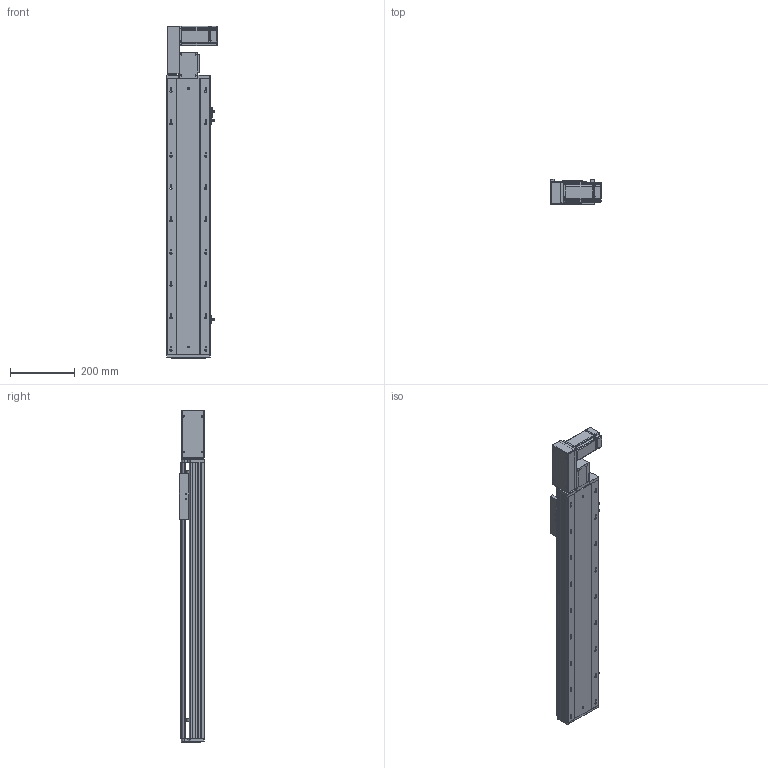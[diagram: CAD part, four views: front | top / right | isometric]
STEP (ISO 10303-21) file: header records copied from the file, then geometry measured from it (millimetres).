
FILE_DESCRIPTION (( 'STEP AP203' ), '1' );
FILE_NAME ('RY140-T-300-LK.SLDASM_600.step', '2021-03-01T06:35:00', ( '盈信电脑' ), ( '东莞市道滘镇水果街19号' ), 'SwSTEP 2.0', 'SolidWorks 2012', '' );
FILE_SCHEMA (( 'CONFIG_CONTROL_DESIGN' ));
Length unit declared in the file: millimetre
Products named in the file (18): RY140-T-300-LK.SLDASM_600; RY140-T翋肮謫裔啣; RY140-T萇儂欶; RY120-T主同步轮轴承压盖; 滅袉蝶18-10; RY120-T蹟翐M4; 15; RY140-T翋肮祭謫盓傅釱; 侂狟400W侜督萇儂; RY140-T萇儂假蚾啣; RY120外置感应片(140共用）; 覜茼ん672; RY120-T肮祭湍揤踡輸1; RY120-T肮祭湍揤踡輸2; RY140肮祭謫臏賑輸; RY140綴裔啣; RY140-T-300-DL倰第奻裔啣_600; RY140-T-300-DL倰第菁釱_600
Assembly tree (23 placements, depth 3):
  RY140-T-300-LK.SLDASM_600
    RY140-T-300-DL倰第菁釱_600
    RY140肮祭謫臏賑輸
    RY140-T-300-DL倰第奻裔啣_600
    RY140綴裔啣
    覜茼ん672  x3
    RY120外置感应片(140共用）
    RY120-T肮祭湍揤踡輸2
    RY120-T肮祭湍揤踡輸1
    RY140-T翋肮祭謫盓傅釱
    RY140-T萇儂假蚾啣
    侂狟400W侜督萇儂
      15
    RY120-T主同步轮轴承压盖
    RY120-T蹟翐M4  x4
    RY140-T萇儂欶
    滅袉蝶18-10  x2
    RY140-T翋肮謫裔啣
Bounding box: 157 x 78 x 1026.5 mm (x, y, z)
Volume: 3035020.7 mm3; surface area: 1134409.8 mm2
Topology: 22 solids, 22 shells, 2651 faces, 7289 edges, 4696 vertices
Faces by surface type: plane 1385, cylinder 972, cone 194, bspline 100
Entity records: 84393 total; most frequent: CARTESIAN_POINT 20755, ORIENTED_EDGE 13114, DIRECTION 12381, EDGE_CURVE 6557, VERTEX_POINT 4295, VECTOR 4189, LINE 4189, AXIS2_PLACEMENT_3D 4096
